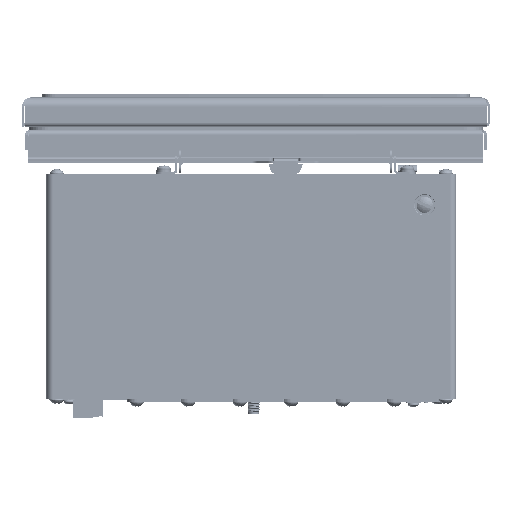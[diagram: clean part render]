
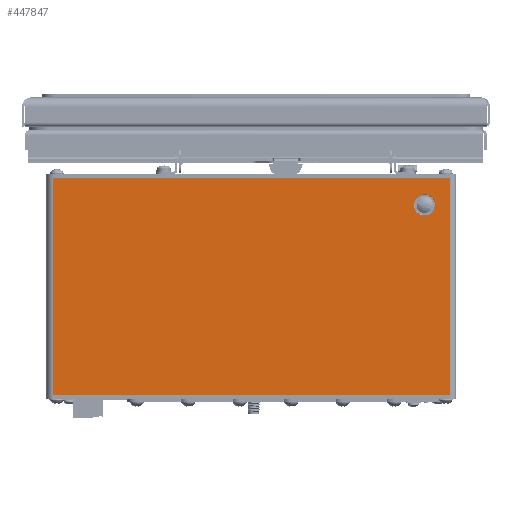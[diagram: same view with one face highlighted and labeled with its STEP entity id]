
A CAD part, front view. The second image highlights one B-rep face of the part: STEP entity #447847.
In plain terms, the highlighted planar face has unit normal (0, -1, 0).
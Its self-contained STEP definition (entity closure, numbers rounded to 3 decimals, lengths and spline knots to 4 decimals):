
#127 = ORIENTED_EDGE ( 'NONE', *, *, #360234, .T. ) ;
#22724 = VECTOR ( 'NONE', #275979, 39.3701 ) ;
#24937 = ORIENTED_EDGE ( 'NONE', *, *, #394605, .F. ) ;
#29212 = CARTESIAN_POINT ( 'NONE',  ( 3.2432, -1.921, -1.4434 ) ) ;
#33391 = CARTESIAN_POINT ( 'NONE',  ( -3.9098, -1.921, -0.9314 ) ) ;
#37656 = PLANE ( 'NONE',  #289346 ) ;
#41590 = VERTEX_POINT ( 'NONE', #337483 ) ;
#91483 = DIRECTION ( 'NONE',  ( 0., -1., 0. ) ) ;
#109301 = ORIENTED_EDGE ( 'NONE', *, *, #266314, .F. ) ;
#111756 = DIRECTION ( 'NONE',  ( 0., -1., 0. ) ) ;
#119395 = AXIS2_PLACEMENT_3D ( 'NONE', #29212, #520769, #312002 ) ;
#119607 = FACE_OUTER_BOUND ( 'NONE', #342536, .T. ) ;
#119924 = VECTOR ( 'NONE', #435478, 39.3701 ) ;
#125925 = EDGE_CURVE ( 'NONE', #41590, #298188, #437775, .T. ) ;
#141573 = CARTESIAN_POINT ( 'NONE',  ( 3.2432, -1.921, -1.4434 ) ) ;
#153085 = EDGE_CURVE ( 'NONE', #166615, #489502, #473608, .T. ) ;
#166615 = VERTEX_POINT ( 'NONE', #275399 ) ;
#198904 = CARTESIAN_POINT ( 'NONE',  ( -3.7198, -1.921, -0.9314 ) ) ;
#200230 = CARTESIAN_POINT ( 'NONE',  ( -3.7198, -1.921, -0.9314 ) ) ;
#238581 = FACE_BOUND ( 'NONE', #392647, .T. ) ;
#245095 = LINE ( 'NONE', #200230, #119924 ) ;
#256869 = CARTESIAN_POINT ( 'NONE',  ( 3.7302, -1.921, -0.9314 ) ) ;
#266314 = EDGE_CURVE ( 'NONE', #489502, #166615, #360025, .T. ) ;
#266896 = DIRECTION ( 'NONE',  ( -1., 0., 0. ) ) ;
#275399 = CARTESIAN_POINT ( 'NONE',  ( 3.2432, -1.921, -1.6484 ) ) ;
#275846 = CARTESIAN_POINT ( 'NONE',  ( -3.9098, -1.921, -5.1014 ) ) ;
#275979 = DIRECTION ( 'NONE',  ( 0., 0., -1. ) ) ;
#289346 = AXIS2_PLACEMENT_3D ( 'NONE', #198904, #111756, #434174 ) ;
#289584 = CARTESIAN_POINT ( 'NONE',  ( 3.2432, -1.921, -1.2384 ) ) ;
#298188 = VERTEX_POINT ( 'NONE', #275846 ) ;
#312002 = DIRECTION ( 'NONE',  ( 0., 0., -1. ) ) ;
#315567 = CARTESIAN_POINT ( 'NONE',  ( 3.7302, -1.921, -0.9314 ) ) ;
#322300 = EDGE_CURVE ( 'NONE', #361121, #298188, #340979, .T. ) ;
#326430 = AXIS2_PLACEMENT_3D ( 'NONE', #141573, #91483, #501016 ) ;
#337483 = CARTESIAN_POINT ( 'NONE',  ( -3.9098, -1.921, -0.9314 ) ) ;
#340979 = LINE ( 'NONE', #462561, #512837 ) ;
#342536 = EDGE_LOOP ( 'NONE', ( #127, #434347, #382177, #24937 ) ) ;
#360025 = CIRCLE ( 'NONE', #326430, 0.205 ) ;
#360234 = EDGE_CURVE ( 'NONE', #413321, #41590, #245095, .T. ) ;
#361121 = VERTEX_POINT ( 'NONE', #473863 ) ;
#382177 = ORIENTED_EDGE ( 'NONE', *, *, #322300, .F. ) ;
#390205 = DIRECTION ( 'NONE',  ( 0., 0., -1. ) ) ;
#392647 = EDGE_LOOP ( 'NONE', ( #518720, #109301 ) ) ;
#394605 = EDGE_CURVE ( 'NONE', #413321, #361121, #402651, .T. ) ;
#402651 = LINE ( 'NONE', #315567, #22724 ) ;
#413321 = VERTEX_POINT ( 'NONE', #256869 ) ;
#434174 = DIRECTION ( 'NONE',  ( 0., 0., -1. ) ) ;
#434347 = ORIENTED_EDGE ( 'NONE', *, *, #125925, .T. ) ;
#435478 = DIRECTION ( 'NONE',  ( -1., 0., 0. ) ) ;
#437775 = LINE ( 'NONE', #33391, #452142 ) ;
#447847 = ADVANCED_FACE ( 'NONE', ( #238581, #119607 ), #37656, .T. ) ;
#452142 = VECTOR ( 'NONE', #390205, 39.3701 ) ;
#462561 = CARTESIAN_POINT ( 'NONE',  ( -3.7198, -1.921, -5.1014 ) ) ;
#473608 = CIRCLE ( 'NONE', #119395, 0.205 ) ;
#473863 = CARTESIAN_POINT ( 'NONE',  ( 3.7302, -1.921, -5.1014 ) ) ;
#489502 = VERTEX_POINT ( 'NONE', #289584 ) ;
#501016 = DIRECTION ( 'NONE',  ( 0., 0., -1. ) ) ;
#512837 = VECTOR ( 'NONE', #266896, 39.3701 ) ;
#518720 = ORIENTED_EDGE ( 'NONE', *, *, #153085, .F. ) ;
#520769 = DIRECTION ( 'NONE',  ( 0., -1., 0. ) ) ;
